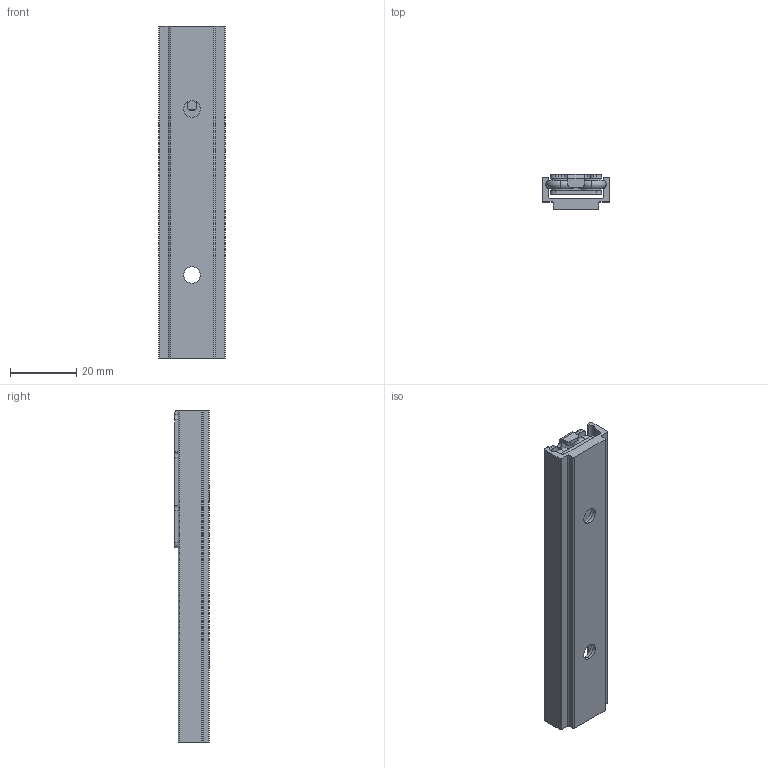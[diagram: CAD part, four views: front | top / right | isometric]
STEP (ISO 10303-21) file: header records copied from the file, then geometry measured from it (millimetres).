
FILE_DESCRIPTION (( 'STEP AP203' ), '1' );
FILE_NAME ('mlg-20c_mlg20-100_0.step', '2023-07-21T00:48:13', ( '' ), ( '' ), 'SwSTEP 2.0', 'SolidWorks 2022', '' );
FILE_SCHEMA (( 'CONFIG_CONTROL_DESIGN' ));
Length unit declared in the file: millimetre
Products named in the file (3): mlg-20c_mlg20-100_0; mlg20-100_0_L=100; mlg-20c_0
Assembly tree (2 placements, depth 2):
  mlg-20c_mlg20-100_0
    mlg20-100_0_L=100
    mlg-20c_0
Bounding box: 20.15 x 10.5 x 100 mm (x, y, z)
Volume: 8827.6 mm3; surface area: 10498.3 mm2
Topology: 2 solids, 2 shells, 411 faces, 1049 edges, 694 vertices
Faces by surface type: plane 254, cylinder 133, torus 24
Entity records: 12814 total; most frequent: DIRECTION 2203, CARTESIAN_POINT 2159, ORIENTED_EDGE 2098, EDGE_CURVE 1049, AXIS2_PLACEMENT_3D 738, LINE 727, VECTOR 727, VERTEX_POINT 694
